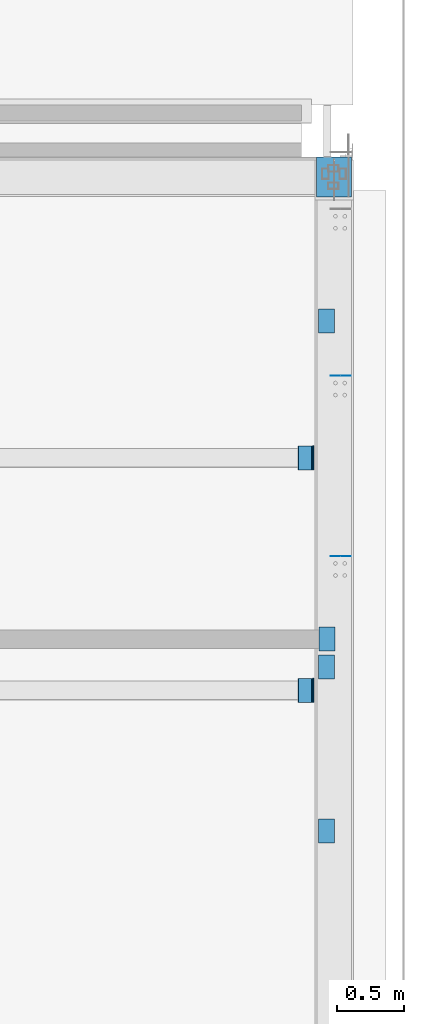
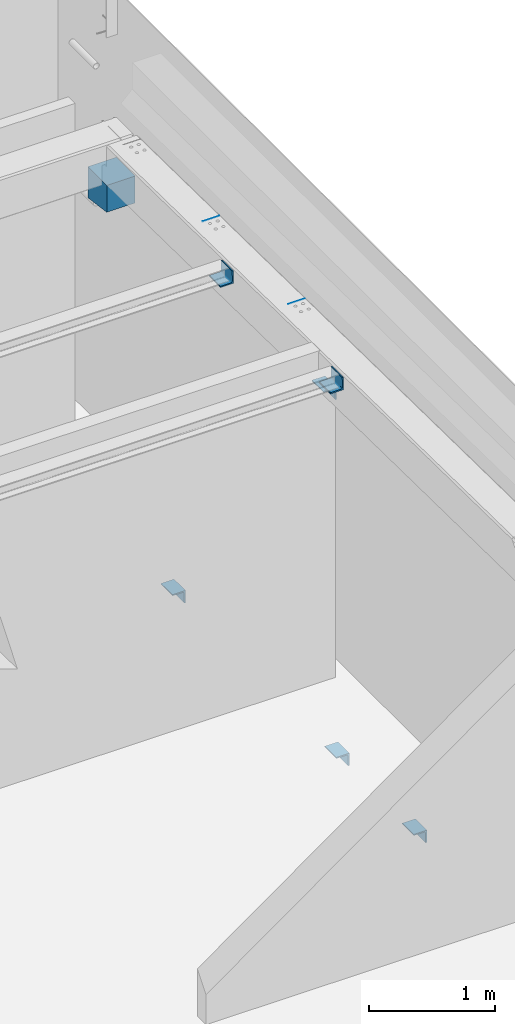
# One storey, part 31 of 186: 9 beams.
"""IFC4X3_ADD2 building model written with IfcOpenShell, lengths in millimetres."""

from ifc_helpers import new_model, entity, si_unit, direction, frame, frame_2d, origin_with_axes, place, context, subcontext, project, spatial, rectangle, l_section, extrude, material, element, save


model = new_model("IFC4X3_ADD2")

# Units and contexts
model_context = context("Model", 3, precision=1e-05, world=origin_with_axes(), true_north=direction((0.0, 1.0)))
body_context = subcontext(model_context, "Body", "Model", "MODEL_VIEW")
ifc_project = project(units=[si_unit("LENGTHUNIT", "METRE", prefix="MILLI"), si_unit("AREAUNIT", "SQUARE_METRE"), si_unit("VOLUMEUNIT", "CUBIC_METRE"), si_unit("PLANEANGLEUNIT", "RADIAN"), si_unit("TIMEUNIT", "SECOND"), si_unit("MASSUNIT", "GRAM")], contexts=[model_context])

# Site, building, storey
site_placement = place(None, origin_with_axes())
site = spatial("IfcSite", under=ifc_project, at=site_placement, Name="Site", CompositionType="ELEMENT")
building_placement = place(site_placement, origin_with_axes())
building = spatial("IfcBuilding", under=site, at=building_placement, Name="IFC Building Story")
storey_placement = place(building_placement, frame((0.0, 0.0, 4370.0), z_axis=(0.0, 0.0, 1.0), x_axis=(1.0, 0.0, 0.0)))
storey = spatial("IfcBuildingStorey", under=building, at=storey_placement, Name="ETAGE 10 (1)", Elevation=4370.0)

# Beams
ifc_material_1 = material(Name="STEEL/Accessory_C50/60 64192")
beam_1_placement = place(storey_placement, frame((48231.188, -150.0, 2599.903), z_axis=(1.0, 0.0, 0.0), x_axis=(0.0, 0.0, 1.0)))
element("IfcBeam", 1, at=beam_1_placement, inside=storey, material=ifc_material_1, Name="BEK1", ObjectType="CORBEL300-300-260", context=body_context, shape_type="SweptSolid", body=[
    extrude(entity("IfcTrapeziumProfileDef", "AREA", None, entity("IfcAxis2Placement2D", entity("IfcCartesianPoint", [0.0, 5.95523630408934e-12]), entity("IfcDirection", [1.0, 0.0])), 300.0, 260.0, 300.0, 40.0), origin_with_axes(), (0.0, 0.0, 1.0), 260.0),
])
ifc_material_2 = material(Name="BS_28_Métal")
beam_2_placement = place(storey_placement, frame((48151.1893482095, -4079.724278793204, 3137.990482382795), z_axis=(0.0, 0.9998875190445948, -0.01499830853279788), x_axis=(-1.0, 0.0, 0.0)))
element("IfcBeam", 2, at=beam_2_placement, inside=storey, material=ifc_material_2, Name="C_28_104 - Cornière symétrique:L120x120x12", ObjectType="L120x120x12", context=body_context, shape_type="SweptSolid", body=[
    extrude(l_section(Depth=120.0000000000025, Width=120.0, Thickness=12.00000000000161, FilletRadius=13.0000000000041, EdgeRadius=4.799999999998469, LegSlope=0.0, at=frame_2d((0.0, 5.95523630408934e-12), x_axis=(1.0, 0.0))), origin_with_axes(), (0.0, 0.0, 1.0), 180.0007083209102),
])
beam_3_placement = place(storey_placement, frame((48151.1893482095, -2339.979559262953, 3110.260349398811), z_axis=(0.0, 0.9998875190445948, -0.01499830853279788), x_axis=(-1.0, 0.0, 0.0)))
element("IfcBeam", 3, at=beam_3_placement, inside=storey, material=ifc_material_2, Name="C_28_104 - Cornière symétrique:L120x120x12", ObjectType="L120x120x12", context=body_context, shape_type="SweptSolid", body=[
    extrude(l_section(Depth=120.0000000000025, Width=120.0, Thickness=12.00000000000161, FilletRadius=13.0000000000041, EdgeRadius=4.799999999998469, LegSlope=0.0, at=frame_2d((0.0, 5.95523630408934e-12), x_axis=(1.0, 0.0))), origin_with_axes(), (0.0, 0.0, 1.0), 180.0000897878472),
])
beam_4_placement = place(storey_placement, frame((48308.18934820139, -3516.251009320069, 2754.794100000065), z_axis=(0.0, -1.0, 0.0), x_axis=(-1.0, 0.0, 0.0)))
element("IfcBeam", 4, at=beam_4_placement, inside=storey, material=ifc_material_2, Name="C_28_104 - Cornière symétrique:L120x120x12", ObjectType="L120x120x12", context=body_context, shape_type="SweptSolid", body=[
    extrude(l_section(Depth=120.0000000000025, Width=120.0, Thickness=12.00000000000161, FilletRadius=13.0000000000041, EdgeRadius=4.799999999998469, LegSlope=0.0, at=frame_2d((0.0, 5.95523630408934e-12), x_axis=(1.0, 0.0))), origin_with_axes(), (0.0, 0.0, 1.0), 180.0),
])
beam_5_placement = place(storey_placement, frame((48303.6893481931, -4950.60531877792, -650.0000000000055), z_axis=(0.0, -1.0, 0.0), x_axis=(-1.0, 0.0, 0.0)))
element("IfcBeam", 5, at=beam_5_placement, inside=storey, material=ifc_material_2, Name="C_28_104 - Cornière symétrique:L120x120x12", ObjectType="L120x120x12", context=body_context, shape_type="SweptSolid", body=[
    extrude(l_section(Depth=120.0000000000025, Width=120.0, Thickness=12.00000000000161, FilletRadius=13.0000000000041, EdgeRadius=4.799999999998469, LegSlope=0.0, at=frame_2d((0.0, 5.95523630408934e-12), x_axis=(1.0, 0.0))), origin_with_axes(), (0.0, 0.0, 1.0), 179.9999999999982),
])
for number, where, z_axis, x_axis, name in (
    (6, (48303.6893481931, -3725.000018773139, -650.0000000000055), (0.0, -1.0, 0.0), (-1.0, 0.0, 0.0), "C_28_104 - Cornière symétrique:L120x120x12"),
    (7, (48303.6893481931, -1135.0000187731, -650.0000000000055), (0.0, -1.0, 0.0), (-1.0, 0.0, 0.0), "C_28_104 - Cornière symétrique:L120x120x12"),
):
    element("IfcBeam", number, at=place(storey_placement, frame(where, z_axis=z_axis, x_axis=x_axis)), inside=storey, material=ifc_material_2, Name=name, ObjectType="L120x120x12", context=body_context, shape_type="SweptSolid", body=[
        extrude(l_section(Depth=120.0000000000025, Width=120.0, Thickness=12.00000000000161, FilletRadius=13.0000000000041, EdgeRadius=4.799999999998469, LegSlope=0.0, at=frame_2d((0.0, 5.95523630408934e-12), x_axis=(1.0, 0.0))), origin_with_axes(), (0.0, 0.0, 1.0), 180.0),
    ])
ifc_material_3 = material(Name="STEEL/Accessory_invisible 261")
for number, where, z_axis, x_axis, name in (
    (8, (48486.692835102, -1635.5316558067, 3174.703713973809), (-1.0, 0.0, 0.0), (0.0, 0.9998873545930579, -0.01500926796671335), "54"),
    (9, (48486.692835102, -2985.53012992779, 3195.676713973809), (-1.0, 0.0, 0.0), (0.0, 0.9998873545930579, -0.01500926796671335), "54"),
):
    element("IfcBeam", number, at=place(storey_placement, frame(where, z_axis=z_axis, x_axis=x_axis)), inside=storey, material=ifc_material_3, Name=name, ObjectType="1*1 3", context=body_context, shape_type="SweptSolid", body=[
        extrude(rectangle(XDim=0.9999999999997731, YDim=0.9999999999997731, at=frame_2d((0.0, 5.95523630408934e-12), x_axis=(1.0, 0.0))), origin_with_axes(), (0.0, 0.0, 1.0), 150.0),
    ])

save(model, "model.ifc")
